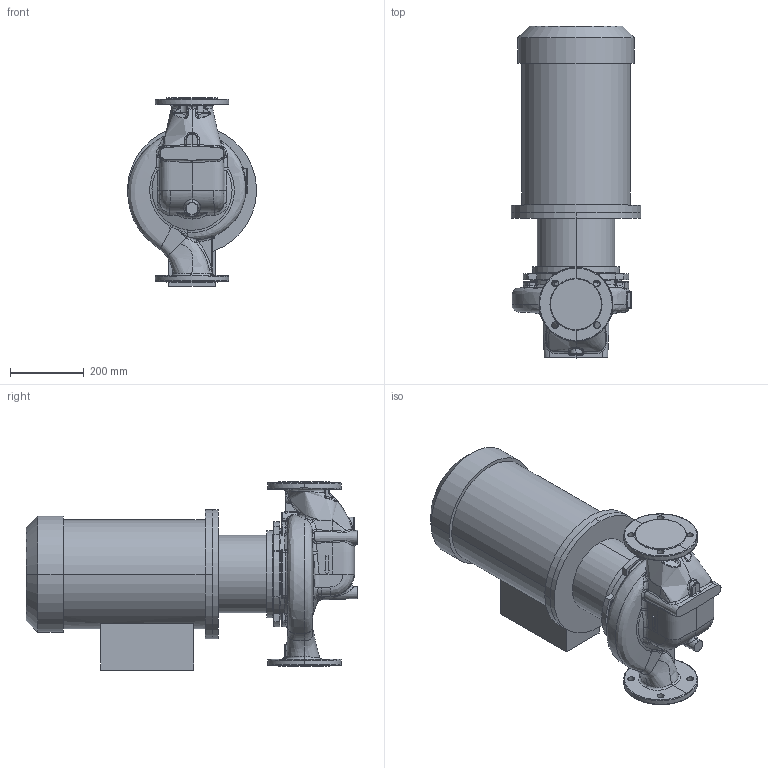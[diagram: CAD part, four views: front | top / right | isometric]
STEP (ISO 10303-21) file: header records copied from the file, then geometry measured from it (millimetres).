
FILE_DESCRIPTION (( 'STEP AP214' ), '1' );
FILE_NAME ('KRL 80-210-2-15.STEP', '2026-04-06T11:28:42', ( '' ), ( '' ), 'SwSTEP 2.0', 'SolidWorks 2016', '' );
FILE_SCHEMA (( 'AUTOMOTIVE_DESIGN' ));
Length unit declared in the file: millimetre
Products named in the file (1): KRL 80-210-2-15
Bounding box: 350 x 899.3 x 510 mm (x, y, z)
Volume: 60793723.1 mm3; surface area: 1755909.3 mm2
Topology: 4 solids, 4 shells, 669 faces, 1656 edges, 986 vertices
Faces by surface type: bspline 324, plane 126, cylinder 120, cone 50, torus 28, sphere 21
Entity records: 69302 total; most frequent: CARTESIAN_POINT 49060, ORIENTED_EDGE 3256, DIRECTION 1900, EDGE_CURVE 1628, VERTEX_POINT 986, AXIS2_PLACEMENT_3D 811, B_SPLINE_CURVE_WITH_KNOTS 757, EDGE_LOOP 704
